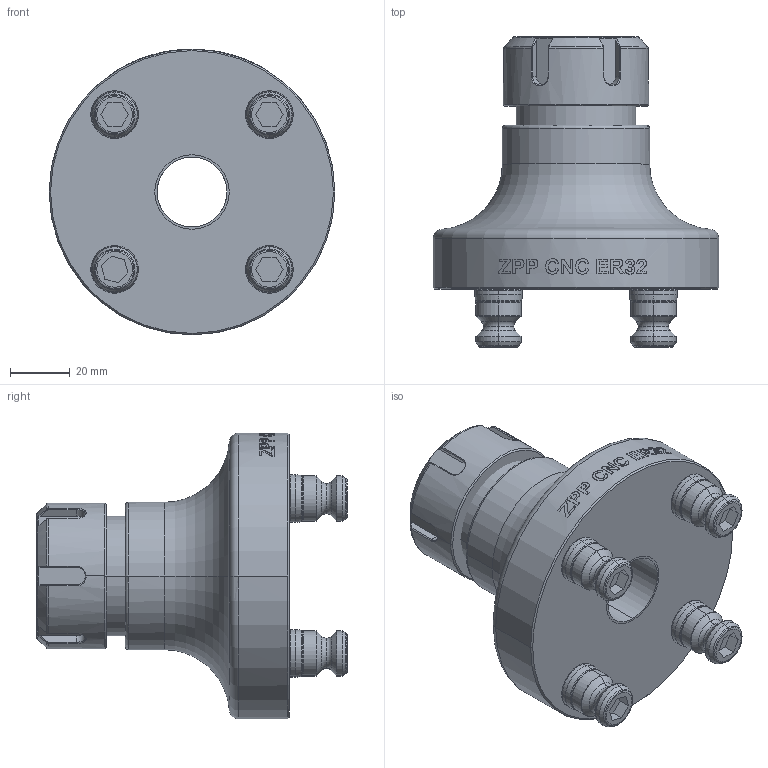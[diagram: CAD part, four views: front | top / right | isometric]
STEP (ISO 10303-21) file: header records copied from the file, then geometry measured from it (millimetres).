
FILE_DESCRIPTION((''),'2;1');
FILE_NAME('TS52-ER32_ASM','2025-01-09T18:05:14',('XF'),(''),'CREO PARAMETRIC BY PTC INC, 2023073','CREO PARAMETRIC BY PTC INC, 2023073','');
FILE_SCHEMA(('CONFIG_CONTROL_DESIGN'));
Length unit declared in the file: millimetre
Products named in the file (5): TS52-ER32_1_9; TS52-ER32_2_1; TS52-ER32_ASM_8_ASM; PS16F; TS52-ER32_ASM
Assembly tree (7 placements, depth 3):
  TS52-ER32_ASM
    TS52-ER32_ASM_8_ASM
      TS52-ER32_1_9
      TS52-ER32_2_1
    PS16F  x4
Bounding box: 96 x 104.36 x 96 mm (x, y, z)
Volume: 239779.5 mm3; surface area: 50728 mm2
Topology: 6 solids, 7 shells, 618 faces, 1488 edges, 912 vertices
Faces by surface type: plane 157, torus 146, extrusion 116, cylinder 95, cone 64, bspline 40
Entity records: 15724 total; most frequent: CARTESIAN_POINT 5752, ORIENTED_EDGE 2164, DIRECTION 1776, EDGE_CURVE 1084, VERTEX_POINT 696, AXIS2_PLACEMENT_3D 609, VECTOR 558, EDGE_LOOP 456
